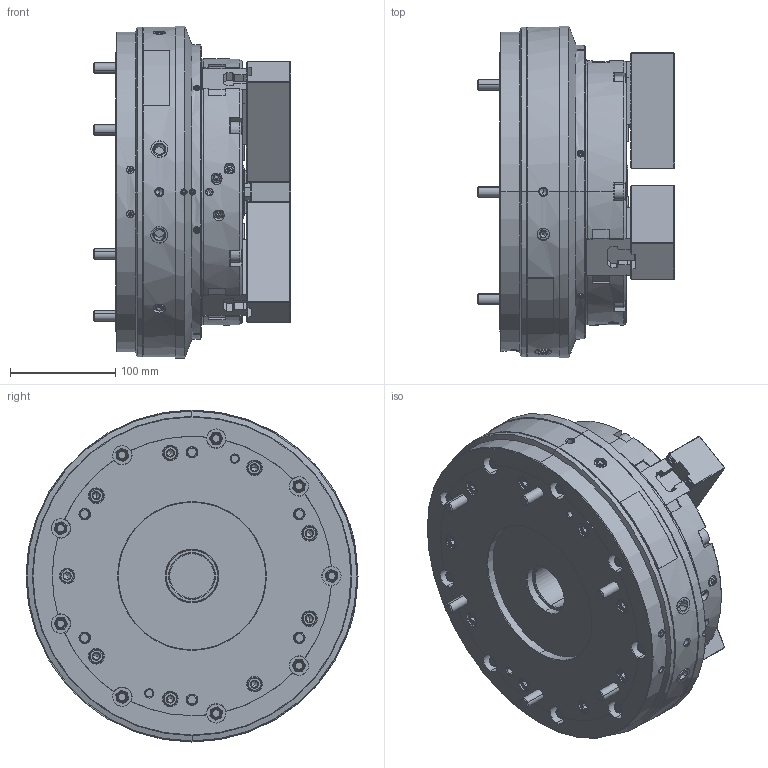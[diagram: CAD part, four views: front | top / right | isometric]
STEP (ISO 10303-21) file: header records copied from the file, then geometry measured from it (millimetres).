
FILE_DESCRIPTION (( 'STEP AP214' ), '1' );
FILE_NAME ('DEV-NRC10-HOL.STEP', '2024-10-03T05:25:00', ( '' ), ( '' ), 'SwSTEP 2.0', 'SolidWorks 2022', '' );
FILE_SCHEMA (( 'AUTOMOTIVE_DESIGN' ));
Length unit declared in the file: millimetre
Products named in the file (9): Copy of 61P413698^DEV-NRC10-クミタテ; Copy of 0030110130^DEV-NRC10-クミタテ; Copy of 61P300113^DEV-NRC10-クミタテ; Copy of 61P400852^DEV-NRC10-クミタテ; DEV-NRC10-HOL; Part1^DEV-NRC10-クミタテ; Copy of 0030112035^DEV-NRC10-クミタテ; Copy of 0263003600^DEV-NRC10-クミタテ_円筒用; Copy of 0693000002^DEV-NRC10-クミタテ
Assembly tree (23 placements, depth 2):
  DEV-NRC10-HOL
    Copy of 61P300113^DEV-NRC10-クミタテ  x3
    Copy of 61P400852^DEV-NRC10-クミタテ  x3
    Copy of 61P413698^DEV-NRC10-クミタテ
    Copy of 0030110130^DEV-NRC10-クミタテ  x6
    Copy of 0030112035^DEV-NRC10-クミタテ  x6
    Copy of 0263003600^DEV-NRC10-クミタテ_円筒用
    Copy of 0693000002^DEV-NRC10-クミタテ  x2
    Part1^DEV-NRC10-クミタテ
Bounding box: 187 x 315 x 315 mm (x, y, z)
Volume: 8091833.7 mm3; surface area: 530565.6 mm2
Topology: 23 solids, 54 shells, 6097 faces, 16895 edges, 11026 vertices
Faces by surface type: plane 3735, cylinder 1450, cone 762, bspline 109, torus 33, sphere 8
Entity records: 144049 total; most frequent: CARTESIAN_POINT 38849, ORIENTED_EDGE 23156, DIRECTION 19730, EDGE_CURVE 11578, VECTOR 8090, LINE 8090, VERTEX_POINT 7547, AXIS2_PLACEMENT_3D 5820
